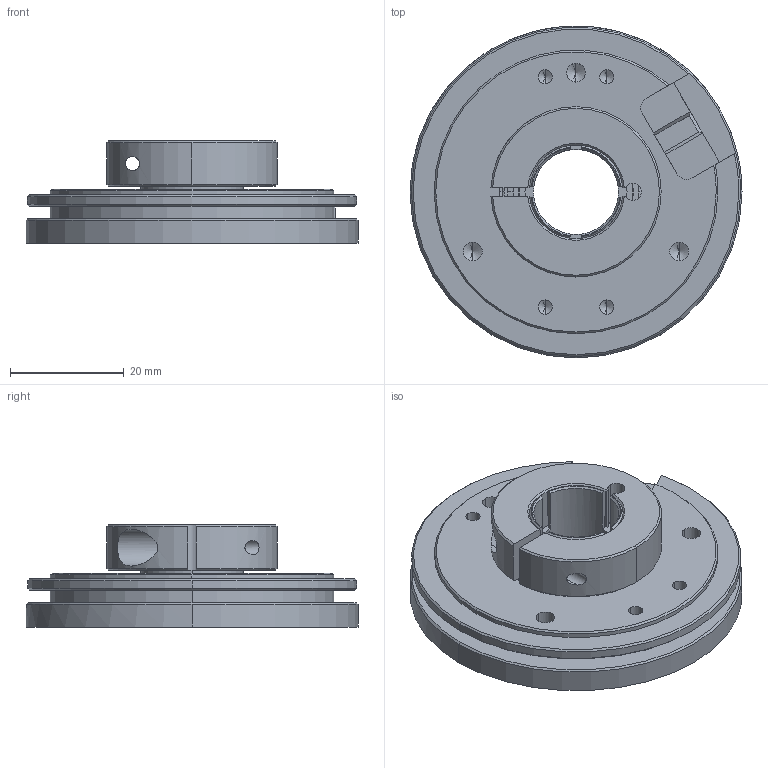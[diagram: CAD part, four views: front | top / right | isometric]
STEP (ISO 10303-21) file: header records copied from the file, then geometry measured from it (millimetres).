
FILE_DESCRIPTION (( 'STEP AP214' ), '1' );
FILE_NAME ('drawing-ucd-hfb0-m5b-n.STEP', '2017-06-06T14:04:03', ( '' ), ( '' ), 'SwSTEP 2.0', 'SolidWorks 2017', '' );
FILE_SCHEMA (( 'AUTOMOTIVE_DESIGN' ));
Length unit declared in the file: millimetre
Products named in the file (1): drawing-ucd-hfb0-m5b-n
Bounding box: 58.5 x 58.5 x 18 mm (x, y, z)
Volume: 23064.9 mm3; surface area: 18024.7 mm2
Topology: 43 solids, 43 shells, 371 faces, 944 edges, 589 vertices
Faces by surface type: cylinder 106, plane 86, cone 73, sphere 64, torus 42
Entity records: 14641 total; most frequent: DIRECTION 1902, CARTESIAN_POINT 1883, ORIENTED_EDGE 1528, AXIS2_PLACEMENT_3D 816, EDGE_CURVE 764, VERTEX_POINT 493, CIRCLE 444, UNCERTAINTY_MEASURE_WITH_UNIT 416
